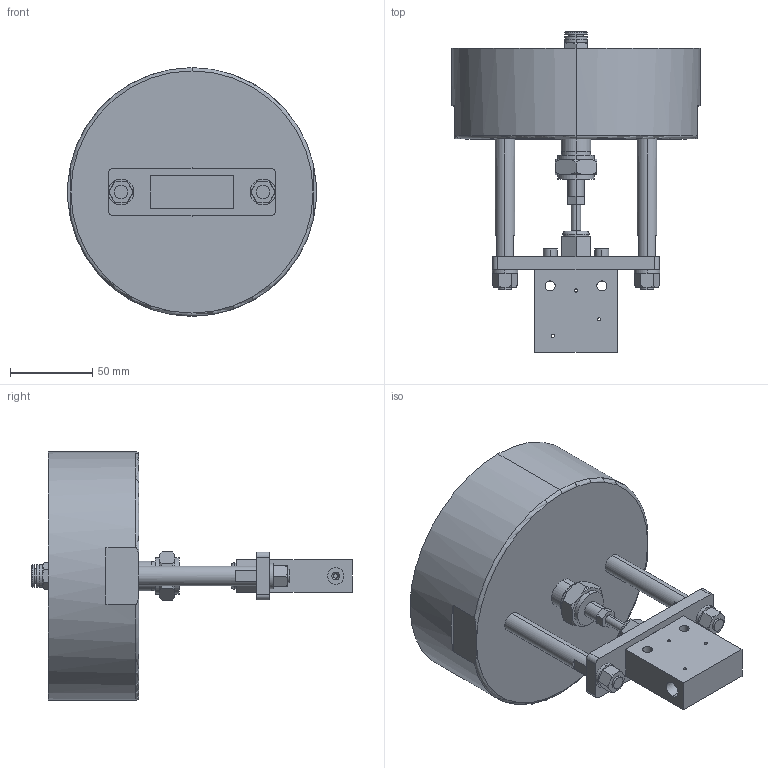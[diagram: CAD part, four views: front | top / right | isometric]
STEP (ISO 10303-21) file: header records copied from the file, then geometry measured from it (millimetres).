
FILE_DESCRIPTION (( 'STEP AP203' ), '1' );
FILE_NAME ('AOV20OS04-S.STEP', '2022-11-02T11:09:28', ( '' ), ( '' ), 'SwSTEP 2.0', 'SolidWorks 2020', '' );
FILE_SCHEMA (( 'CONFIG_CONTROL_DESIGN' ));
Length unit declared in the file: millimetre
Products named in the file (1): AOV20OS04-S
Bounding box: 151 x 194.56 x 151 mm (x, y, z)
Volume: 1002730.1 mm3; surface area: 93264 mm2
Topology: 1 solids, 1 shells, 244 faces, 604 edges, 387 vertices
Faces by surface type: plane 107, cylinder 82, cone 48, torus 7
Entity records: 7827 total; most frequent: CARTESIAN_POINT 1850, DIRECTION 1258, ORIENTED_EDGE 1208, EDGE_CURVE 604, AXIS2_PLACEMENT_3D 493, VERTEX_POINT 387, EDGE_LOOP 291, VECTOR 272
